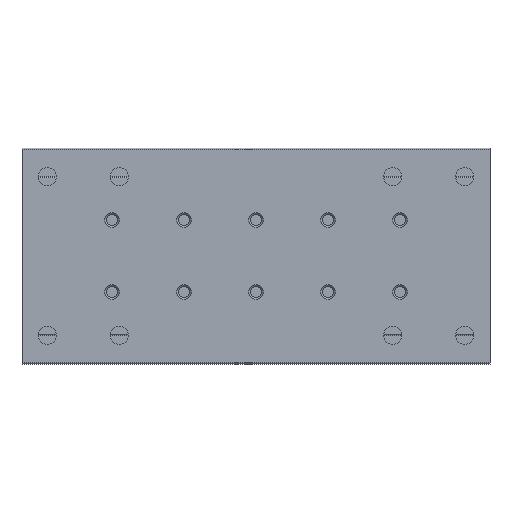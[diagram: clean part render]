
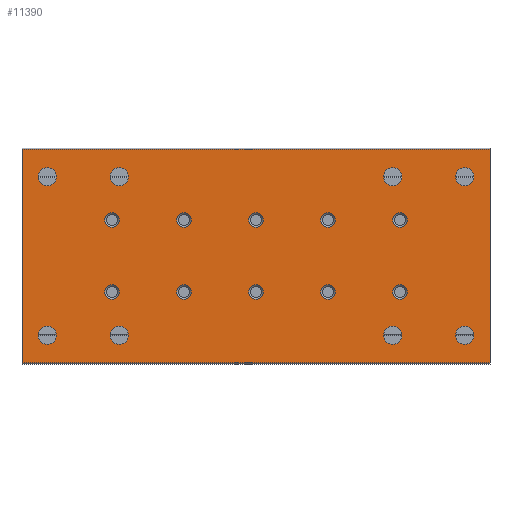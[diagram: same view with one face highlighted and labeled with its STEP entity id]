
A CAD part, front view. The second image highlights one B-rep face of the part: STEP entity #11390.
In plain terms, the highlighted planar face has unit normal (0, -1, 0).
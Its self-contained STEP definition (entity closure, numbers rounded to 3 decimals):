
#398=CIRCLE('',#12084,1.);
#399=CIRCLE('',#12085,1.);
#400=CIRCLE('',#12086,1.);
#401=CIRCLE('',#12087,1.);
#402=CIRCLE('',#12088,1.);
#403=CIRCLE('',#12089,1.);
#404=CIRCLE('',#12090,1.);
#405=CIRCLE('',#12091,1.);
#406=CIRCLE('',#12092,1.);
#407=CIRCLE('',#12093,1.);
#408=CIRCLE('',#12094,1.275);
#409=CIRCLE('',#12095,1.275);
#410=CIRCLE('',#12096,1.275);
#411=CIRCLE('',#12097,1.275);
#412=CIRCLE('',#12098,1.275);
#413=CIRCLE('',#12099,1.275);
#414=CIRCLE('',#12100,1.275);
#415=CIRCLE('',#12101,1.275);
#1178=ORIENTED_EDGE('',*,*,#4595,.F.);
#1179=ORIENTED_EDGE('',*,*,#4596,.F.);
#1180=ORIENTED_EDGE('',*,*,#4597,.F.);
#1181=ORIENTED_EDGE('',*,*,#4598,.F.);
#1182=ORIENTED_EDGE('',*,*,#4599,.F.);
#1183=ORIENTED_EDGE('',*,*,#4600,.F.);
#1184=ORIENTED_EDGE('',*,*,#4601,.F.);
#1185=ORIENTED_EDGE('',*,*,#4602,.F.);
#1186=ORIENTED_EDGE('',*,*,#4603,.F.);
#1187=ORIENTED_EDGE('',*,*,#4604,.F.);
#1188=ORIENTED_EDGE('',*,*,#4605,.F.);
#1189=ORIENTED_EDGE('',*,*,#4606,.F.);
#1190=ORIENTED_EDGE('',*,*,#4607,.F.);
#1191=ORIENTED_EDGE('',*,*,#4608,.F.);
#1192=ORIENTED_EDGE('',*,*,#4609,.T.);
#1193=ORIENTED_EDGE('',*,*,#4610,.F.);
#1194=ORIENTED_EDGE('',*,*,#4611,.F.);
#1195=ORIENTED_EDGE('',*,*,#4612,.F.);
#1196=ORIENTED_EDGE('',*,*,#4569,.T.);
#1197=ORIENTED_EDGE('',*,*,#4613,.F.);
#1198=ORIENTED_EDGE('',*,*,#4614,.F.);
#1199=ORIENTED_EDGE('',*,*,#4593,.T.);
#4569=EDGE_CURVE('',#6280,#6279,#7451,.T.);
#4593=EDGE_CURVE('',#6302,#6280,#7475,.T.);
#4595=EDGE_CURVE('',#6303,#6303,#398,.T.);
#4596=EDGE_CURVE('',#6304,#6304,#399,.T.);
#4597=EDGE_CURVE('',#6305,#6305,#400,.T.);
#4598=EDGE_CURVE('',#6306,#6306,#401,.T.);
#4599=EDGE_CURVE('',#6307,#6307,#402,.T.);
#4600=EDGE_CURVE('',#6308,#6308,#403,.T.);
#4601=EDGE_CURVE('',#6309,#6309,#404,.T.);
#4602=EDGE_CURVE('',#6310,#6310,#405,.T.);
#4603=EDGE_CURVE('',#6311,#6311,#406,.T.);
#4604=EDGE_CURVE('',#6312,#6312,#407,.T.);
#4605=EDGE_CURVE('',#6313,#6313,#408,.T.);
#4606=EDGE_CURVE('',#6314,#6314,#409,.T.);
#4607=EDGE_CURVE('',#6315,#6315,#410,.T.);
#4608=EDGE_CURVE('',#6316,#6316,#411,.T.);
#4609=EDGE_CURVE('',#6317,#6317,#412,.T.);
#4610=EDGE_CURVE('',#6318,#6318,#413,.T.);
#4611=EDGE_CURVE('',#6319,#6319,#414,.T.);
#4612=EDGE_CURVE('',#6320,#6320,#415,.T.);
#4613=EDGE_CURVE('',#6321,#6279,#7477,.T.);
#4614=EDGE_CURVE('',#6302,#6321,#7478,.T.);
#6279=VERTEX_POINT('',#17302);
#6280=VERTEX_POINT('',#17304);
#6302=VERTEX_POINT('',#17353);
#6303=VERTEX_POINT('',#17357);
#6304=VERTEX_POINT('',#17359);
#6305=VERTEX_POINT('',#17361);
#6306=VERTEX_POINT('',#17363);
#6307=VERTEX_POINT('',#17365);
#6308=VERTEX_POINT('',#17367);
#6309=VERTEX_POINT('',#17369);
#6310=VERTEX_POINT('',#17371);
#6311=VERTEX_POINT('',#17373);
#6312=VERTEX_POINT('',#17375);
#6313=VERTEX_POINT('',#17377);
#6314=VERTEX_POINT('',#17379);
#6315=VERTEX_POINT('',#17381);
#6316=VERTEX_POINT('',#17383);
#6317=VERTEX_POINT('',#17385);
#6318=VERTEX_POINT('',#17387);
#6319=VERTEX_POINT('',#17389);
#6320=VERTEX_POINT('',#17391);
#6321=VERTEX_POINT('',#17393);
#7451=LINE('',#17303,#8465);
#7475=LINE('',#17352,#8489);
#7477=LINE('',#17392,#8491);
#7478=LINE('',#17394,#8492);
#8465=VECTOR('',#13510,1000.);
#8489=VECTOR('',#13540,1000.);
#8491=VECTOR('',#13580,1000.);
#8492=VECTOR('',#13581,1000.);
#9435=EDGE_LOOP('',(#1178));
#9436=EDGE_LOOP('',(#1179));
#9437=EDGE_LOOP('',(#1180));
#9438=EDGE_LOOP('',(#1181));
#9439=EDGE_LOOP('',(#1182));
#9440=EDGE_LOOP('',(#1183));
#9441=EDGE_LOOP('',(#1184));
#9442=EDGE_LOOP('',(#1185));
#9443=EDGE_LOOP('',(#1186));
#9444=EDGE_LOOP('',(#1187));
#9445=EDGE_LOOP('',(#1188));
#9446=EDGE_LOOP('',(#1189));
#9447=EDGE_LOOP('',(#1190));
#9448=EDGE_LOOP('',(#1191));
#9449=EDGE_LOOP('',(#1192));
#9450=EDGE_LOOP('',(#1193));
#9451=EDGE_LOOP('',(#1194));
#9452=EDGE_LOOP('',(#1195));
#9453=EDGE_LOOP('',(#1196,#1197,#1198,#1199));
#10263=FACE_BOUND('',#9435,.T.);
#10264=FACE_BOUND('',#9436,.T.);
#10265=FACE_BOUND('',#9437,.T.);
#10266=FACE_BOUND('',#9438,.T.);
#10267=FACE_BOUND('',#9439,.T.);
#10268=FACE_BOUND('',#9440,.T.);
#10269=FACE_BOUND('',#9441,.T.);
#10270=FACE_BOUND('',#9442,.T.);
#10271=FACE_BOUND('',#9443,.T.);
#10272=FACE_BOUND('',#9444,.T.);
#10273=FACE_BOUND('',#9445,.T.);
#10274=FACE_BOUND('',#9446,.T.);
#10275=FACE_BOUND('',#9447,.T.);
#10276=FACE_BOUND('',#9448,.T.);
#10277=FACE_BOUND('',#9449,.T.);
#10278=FACE_BOUND('',#9450,.T.);
#10279=FACE_BOUND('',#9451,.T.);
#10280=FACE_BOUND('',#9452,.T.);
#10281=FACE_BOUND('',#9453,.T.);
#11091=PLANE('',#12083);
#11390=ADVANCED_FACE('',(#10263,#10264,#10265,#10266,#10267,#10268,#10269,
#10270,#10271,#10272,#10273,#10274,#10275,#10276,#10277,#10278,#10279,#10280,
#10281),#11091,.F.);
#12083=AXIS2_PLACEMENT_3D('',#17355,#13542,#13543);
#12084=AXIS2_PLACEMENT_3D('',#17356,#13544,#13545);
#12085=AXIS2_PLACEMENT_3D('',#17358,#13546,#13547);
#12086=AXIS2_PLACEMENT_3D('',#17360,#13548,#13549);
#12087=AXIS2_PLACEMENT_3D('',#17362,#13550,#13551);
#12088=AXIS2_PLACEMENT_3D('',#17364,#13552,#13553);
#12089=AXIS2_PLACEMENT_3D('',#17366,#13554,#13555);
#12090=AXIS2_PLACEMENT_3D('',#17368,#13556,#13557);
#12091=AXIS2_PLACEMENT_3D('',#17370,#13558,#13559);
#12092=AXIS2_PLACEMENT_3D('',#17372,#13560,#13561);
#12093=AXIS2_PLACEMENT_3D('',#17374,#13562,#13563);
#12094=AXIS2_PLACEMENT_3D('',#17376,#13564,#13565);
#12095=AXIS2_PLACEMENT_3D('',#17378,#13566,#13567);
#12096=AXIS2_PLACEMENT_3D('',#17380,#13568,#13569);
#12097=AXIS2_PLACEMENT_3D('',#17382,#13570,#13571);
#12098=AXIS2_PLACEMENT_3D('',#17384,#13572,#13573);
#12099=AXIS2_PLACEMENT_3D('',#17386,#13574,#13575);
#12100=AXIS2_PLACEMENT_3D('',#17388,#13576,#13577);
#12101=AXIS2_PLACEMENT_3D('',#17390,#13578,#13579);
#13510=DIRECTION('',(0.,0.,-1.));
#13540=DIRECTION('',(-1.,0.,0.));
#13542=DIRECTION('',(0.,1.,0.));
#13543=DIRECTION('',(0.,0.,1.));
#13544=DIRECTION('',(0.,-1.,0.));
#13545=DIRECTION('',(0.,0.,-1.));
#13546=DIRECTION('',(0.,-1.,0.));
#13547=DIRECTION('',(0.,0.,-1.));
#13548=DIRECTION('',(0.,-1.,0.));
#13549=DIRECTION('',(0.,0.,-1.));
#13550=DIRECTION('',(0.,-1.,0.));
#13551=DIRECTION('',(0.,0.,-1.));
#13552=DIRECTION('',(0.,-1.,0.));
#13553=DIRECTION('',(0.,0.,-1.));
#13554=DIRECTION('',(0.,-1.,0.));
#13555=DIRECTION('',(0.,0.,-1.));
#13556=DIRECTION('',(0.,-1.,0.));
#13557=DIRECTION('',(0.,0.,-1.));
#13558=DIRECTION('',(0.,-1.,0.));
#13559=DIRECTION('',(0.,0.,-1.));
#13560=DIRECTION('',(0.,-1.,0.));
#13561=DIRECTION('',(0.,0.,-1.));
#13562=DIRECTION('',(0.,-1.,0.));
#13563=DIRECTION('',(0.,0.,-1.));
#13564=DIRECTION('',(0.,-1.,0.));
#13565=DIRECTION('',(0.,0.,-1.));
#13566=DIRECTION('',(0.,-1.,0.));
#13567=DIRECTION('',(0.,0.,-1.));
#13568=DIRECTION('',(0.,-1.,0.));
#13569=DIRECTION('',(0.,0.,-1.));
#13570=DIRECTION('',(0.,-1.,0.));
#13571=DIRECTION('',(0.,0.,-1.));
#13572=DIRECTION('',(0.,1.,0.));
#13573=DIRECTION('',(0.,0.,1.));
#13574=DIRECTION('',(0.,-1.,0.));
#13575=DIRECTION('',(0.,0.,-1.));
#13576=DIRECTION('',(0.,-1.,0.));
#13577=DIRECTION('',(0.,0.,-1.));
#13578=DIRECTION('',(0.,-1.,0.));
#13579=DIRECTION('',(0.,0.,-1.));
#13580=DIRECTION('',(-1.,0.,0.));
#13581=DIRECTION('',(0.,0.,-1.));
#17302=CARTESIAN_POINT('',(0.,0.,-14.85));
#17303=CARTESIAN_POINT('',(0.,0.,14.85));
#17304=CARTESIAN_POINT('',(0.,0.,14.85));
#17352=CARTESIAN_POINT('',(65.,0.,14.85));
#17353=CARTESIAN_POINT('',(65.,0.,14.85));
#17355=CARTESIAN_POINT('',(65.,0.,14.85));
#17356=CARTESIAN_POINT('',(12.5,0.,-5.));
#17357=CARTESIAN_POINT('',(12.5,0.,-6.));
#17358=CARTESIAN_POINT('',(12.5,0.,5.));
#17359=CARTESIAN_POINT('',(12.5,0.,4.));
#17360=CARTESIAN_POINT('',(52.5,0.,-5.));
#17361=CARTESIAN_POINT('',(52.5,0.,-6.));
#17362=CARTESIAN_POINT('',(52.5,0.,5.));
#17363=CARTESIAN_POINT('',(52.5,0.,4.));
#17364=CARTESIAN_POINT('',(42.5,0.,-5.));
#17365=CARTESIAN_POINT('',(42.5,0.,-6.));
#17366=CARTESIAN_POINT('',(42.5,0.,5.));
#17367=CARTESIAN_POINT('',(42.5,0.,4.));
#17368=CARTESIAN_POINT('',(22.5,0.,-5.));
#17369=CARTESIAN_POINT('',(22.5,0.,-6.));
#17370=CARTESIAN_POINT('',(22.5,0.,5.));
#17371=CARTESIAN_POINT('',(22.5,0.,4.));
#17372=CARTESIAN_POINT('',(32.5,0.,-5.));
#17373=CARTESIAN_POINT('',(32.5,0.,-6.));
#17374=CARTESIAN_POINT('',(32.5,0.,5.));
#17375=CARTESIAN_POINT('',(32.5,0.,4.));
#17376=CARTESIAN_POINT('',(51.5,0.,11.));
#17377=CARTESIAN_POINT('',(51.5,0.,9.725));
#17378=CARTESIAN_POINT('',(51.5,0.,-11.));
#17379=CARTESIAN_POINT('',(51.5,0.,-12.275));
#17380=CARTESIAN_POINT('',(13.5,0.,11.));
#17381=CARTESIAN_POINT('',(13.5,0.,9.725));
#17382=CARTESIAN_POINT('',(13.5,0.,-11.));
#17383=CARTESIAN_POINT('',(13.5,0.,-12.275));
#17384=CARTESIAN_POINT('',(61.5,0.,11.));
#17385=CARTESIAN_POINT('',(61.5,0.,12.275));
#17386=CARTESIAN_POINT('',(61.5,0.,-11.));
#17387=CARTESIAN_POINT('',(61.5,0.,-12.275));
#17388=CARTESIAN_POINT('',(3.5,0.,-11.));
#17389=CARTESIAN_POINT('',(3.5,0.,-12.275));
#17390=CARTESIAN_POINT('',(3.5,0.,11.));
#17391=CARTESIAN_POINT('',(3.5,0.,9.725));
#17392=CARTESIAN_POINT('',(65.,0.,-14.85));
#17393=CARTESIAN_POINT('',(65.,0.,-14.85));
#17394=CARTESIAN_POINT('',(65.,0.,14.85));
